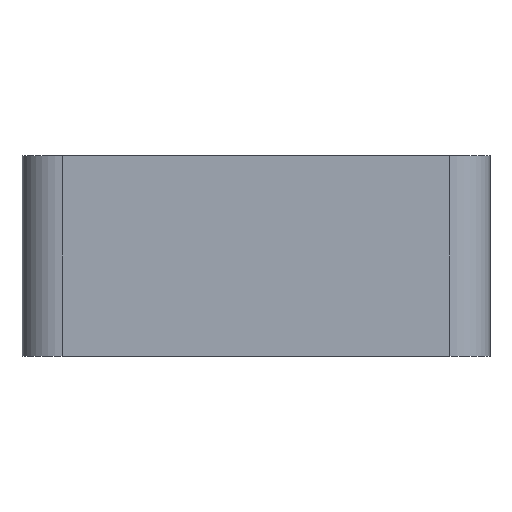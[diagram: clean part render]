
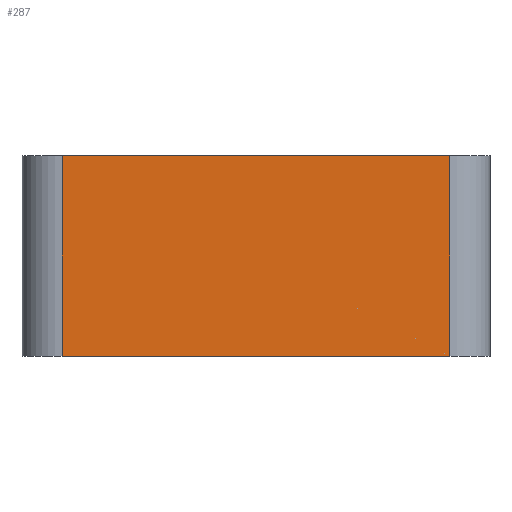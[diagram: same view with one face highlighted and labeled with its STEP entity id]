
A CAD part, front view. The second image highlights one B-rep face of the part: STEP entity #287.
In plain terms, the highlighted planar face has unit normal (0, -1, 0).
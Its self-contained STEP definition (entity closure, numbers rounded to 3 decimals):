
#167=FACE_OUTER_BOUND('',#898,.T.);
#287=ADVANCED_FACE('',(#167),#435,.T.);
#435=PLANE('',#2692);
#530=LINE('',#3855,#654);
#537=LINE('',#3952,#661);
#538=LINE('',#3955,#662);
#539=LINE('',#3956,#663);
#654=VECTOR('',#2867,1.);
#661=VECTOR('',#2884,1.);
#662=VECTOR('',#2885,1.);
#663=VECTOR('',#2886,1.);
#898=EDGE_LOOP('',(#1179,#1180,#1181,#1182));
#1179=ORIENTED_EDGE('',*,*,#2132,.T.);
#1180=ORIENTED_EDGE('',*,*,#2133,.T.);
#1181=ORIENTED_EDGE('',*,*,#2109,.T.);
#1182=ORIENTED_EDGE('',*,*,#2134,.T.);
#1863=VERTEX_POINT('',#3854);
#1864=VERTEX_POINT('',#3856);
#1885=VERTEX_POINT('',#3953);
#1886=VERTEX_POINT('',#3954);
#2109=EDGE_CURVE('',#1864,#1863,#530,.T.);
#2132=EDGE_CURVE('',#1885,#1886,#537,.T.);
#2133=EDGE_CURVE('',#1886,#1864,#538,.T.);
#2134=EDGE_CURVE('',#1863,#1885,#539,.T.);
#2692=AXIS2_PLACEMENT_3D('',#3957,#2887,#2888);
#2867=DIRECTION('',(-1.,0.,0.));
#2884=DIRECTION('',(1.,0.,0.));
#2885=DIRECTION('',(0.,0.,1.));
#2886=DIRECTION('',(0.,0.,-1.));
#2887=DIRECTION('',(0.,-1.,0.));
#2888=DIRECTION('',(0.,0.,-1.));
#3854=CARTESIAN_POINT('',(3.,0.,15.));
#3855=CARTESIAN_POINT('',(17.5,0.,15.));
#3856=CARTESIAN_POINT('',(32.,0.,15.));
#3952=CARTESIAN_POINT('',(17.5,0.,0.));
#3953=CARTESIAN_POINT('',(3.,0.,0.));
#3954=CARTESIAN_POINT('',(32.,0.,0.));
#3955=CARTESIAN_POINT('',(32.,0.,0.));
#3956=CARTESIAN_POINT('',(3.,0.,0.));
#3957=CARTESIAN_POINT('',(17.5,0.,0.));
